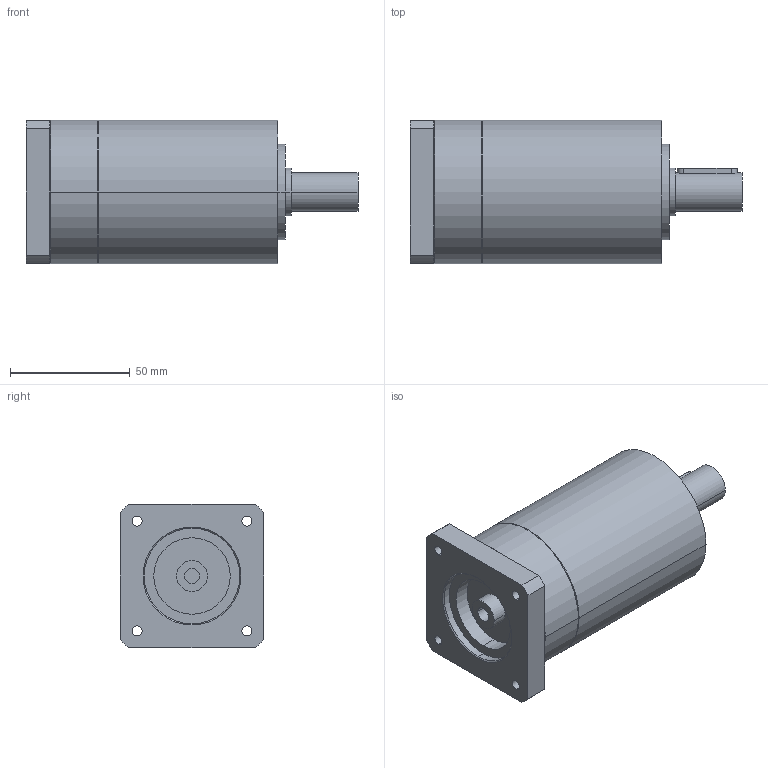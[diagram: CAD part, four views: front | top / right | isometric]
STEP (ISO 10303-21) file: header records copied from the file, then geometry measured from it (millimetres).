
FILE_DESCRIPTION(('CoCreate Modeling STEP Export'),'2;1');
FILE_NAME('GPR75_ig-9-12-16-20-24-30-36_16_B14_6.35_P32.stp','2014-08-25T16:04:22',(''),(''),'CoCreate Modeling STEP processor for AP214 (Solid Model)','CoCreate Modeling 16.00C 25-Feb-2009 (C) Parametric Technology GmbH','');
FILE_SCHEMA(('AUTOMOTIVE_DESIGN { 1 0 10303 214 1 1 1 1 }'));
Length unit declared in the file: millimetre
Products named in the file (2): GPR75_ig-9-12-16-20-24-30-36_16_B14_6.35_P32
Assembly tree (1 placements, depth 2):
  GPR75_ig-9-12-16-20-24-30-36_16_B14_6.35_P32
    GPR75_ig-9-12-16-20-24-30-36_16_B14_6.35_P32
Bounding box: 138.9 x 60 x 60 mm (x, y, z)
Volume: 304997.3 mm3; surface area: 32610.3 mm2
Topology: 1 solids, 1 shells, 72 faces, 190 edges, 132 vertices
Faces by surface type: cylinder 42, plane 22, cone 8
Entity records: 1969 total; most frequent: ORIENTED_EDGE 376, CARTESIAN_POINT 364, DIRECTION 268, EDGE_CURVE 188, VERTEX_POINT 132, AXIS2_PLACEMENT_3D 100, EDGE_LOOP 94, FACE_OUTER_BOUND 72
